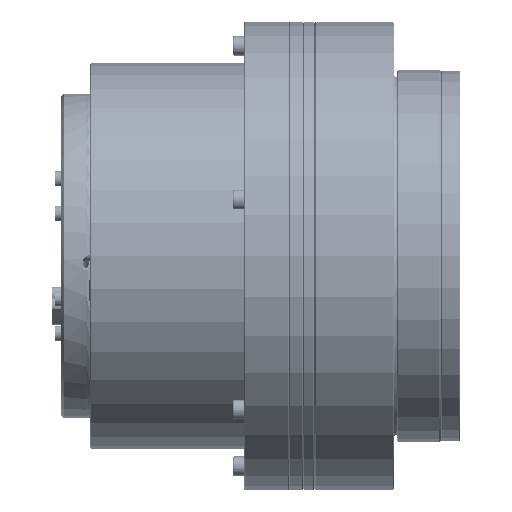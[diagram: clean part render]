
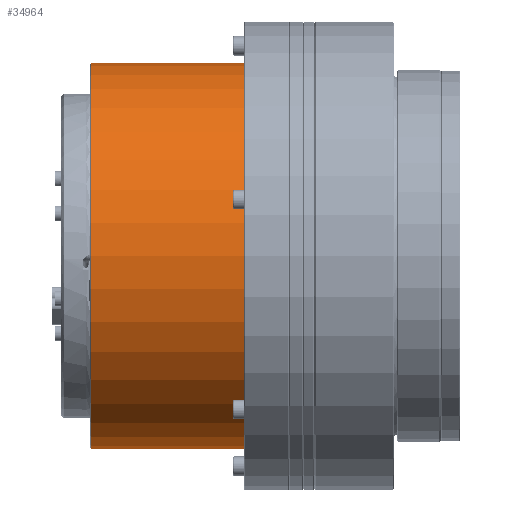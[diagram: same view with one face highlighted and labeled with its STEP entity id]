
A CAD part, front view. The second image highlights one B-rep face of the part: STEP entity #34964.
In plain terms, the highlighted cylindrical face has radius 70 mm (diameter 140 mm), a partial arc.
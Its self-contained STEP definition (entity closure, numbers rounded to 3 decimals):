
#6962 = AXIS2_PLACEMENT_3D ( 'NONE', #186880, #269823, #77731 ) ;
#17768 = DIRECTION ( 'NONE',  ( 0., 0., -1. ) ) ;
#34964 = ADVANCED_FACE ( 'NONE', ( #270610 ), #100656, .T. ) ;
#38488 = DIRECTION ( 'NONE',  ( -1., 0., 0. ) ) ;
#44963 = VECTOR ( 'NONE', #150883, 1000. ) ;
#49938 = LINE ( 'NONE', #130149, #44963 ) ;
#53659 = EDGE_CURVE ( 'NONE', #88461, #240815, #72015, .T. ) ;
#53943 = EDGE_LOOP ( 'NONE', ( #69143, #267184, #94367, #186346 ) ) ;
#61936 = DIRECTION ( 'NONE',  ( 1., 0., 0. ) ) ;
#69143 = ORIENTED_EDGE ( 'NONE', *, *, #243228, .F. ) ;
#72015 = LINE ( 'NONE', #240675, #230796 ) ;
#75046 = VERTEX_POINT ( 'NONE', #168792 ) ;
#77731 = DIRECTION ( 'NONE',  ( 0., 0., 1. ) ) ;
#78556 = CARTESIAN_POINT ( 'NONE',  ( -25.6, 0., 70. ) ) ;
#88461 = VERTEX_POINT ( 'NONE', #235771 ) ;
#94367 = ORIENTED_EDGE ( 'NONE', *, *, #175031, .T. ) ;
#95175 = AXIS2_PLACEMENT_3D ( 'NONE', #251288, #61936, #209809 ) ;
#100656 = CYLINDRICAL_SURFACE ( 'NONE', #246277, 70. ) ;
#130149 = CARTESIAN_POINT ( 'NONE',  ( -7.6, 0., 70. ) ) ;
#144969 = VERTEX_POINT ( 'NONE', #78556 ) ;
#150883 = DIRECTION ( 'NONE',  ( -1., 0., 0. ) ) ;
#168792 = CARTESIAN_POINT ( 'NONE',  ( -81., 0., 70. ) ) ;
#175031 = EDGE_CURVE ( 'NONE', #75046, #240815, #249650, .T. ) ;
#178459 = DIRECTION ( 'NONE',  ( -1., 0., 0. ) ) ;
#184961 = CARTESIAN_POINT ( 'NONE',  ( -7.6, 0., 0. ) ) ;
#186346 = ORIENTED_EDGE ( 'NONE', *, *, #53659, .F. ) ;
#186487 = CARTESIAN_POINT ( 'NONE',  ( -81., 0., -70. ) ) ;
#186880 = CARTESIAN_POINT ( 'NONE',  ( -25.6, 0., 0. ) ) ;
#201492 = EDGE_CURVE ( 'NONE', #144969, #75046, #49938, .T. ) ;
#205559 = CIRCLE ( 'NONE', #6962, 70. ) ;
#209809 = DIRECTION ( 'NONE',  ( 0., 0., -1. ) ) ;
#230796 = VECTOR ( 'NONE', #178459, 1000. ) ;
#235771 = CARTESIAN_POINT ( 'NONE',  ( -25.6, 0., -70. ) ) ;
#240675 = CARTESIAN_POINT ( 'NONE',  ( -7.6, 0., -70. ) ) ;
#240815 = VERTEX_POINT ( 'NONE', #186487 ) ;
#243228 = EDGE_CURVE ( 'NONE', #144969, #88461, #205559, .T. ) ;
#246277 = AXIS2_PLACEMENT_3D ( 'NONE', #184961, #38488, #17768 ) ;
#249650 = CIRCLE ( 'NONE', #95175, 70. ) ;
#251288 = CARTESIAN_POINT ( 'NONE',  ( -81., 0., 0. ) ) ;
#267184 = ORIENTED_EDGE ( 'NONE', *, *, #201492, .T. ) ;
#269823 = DIRECTION ( 'NONE',  ( 1., 0., 0. ) ) ;
#270610 = FACE_OUTER_BOUND ( 'NONE', #53943, .T. ) ;
